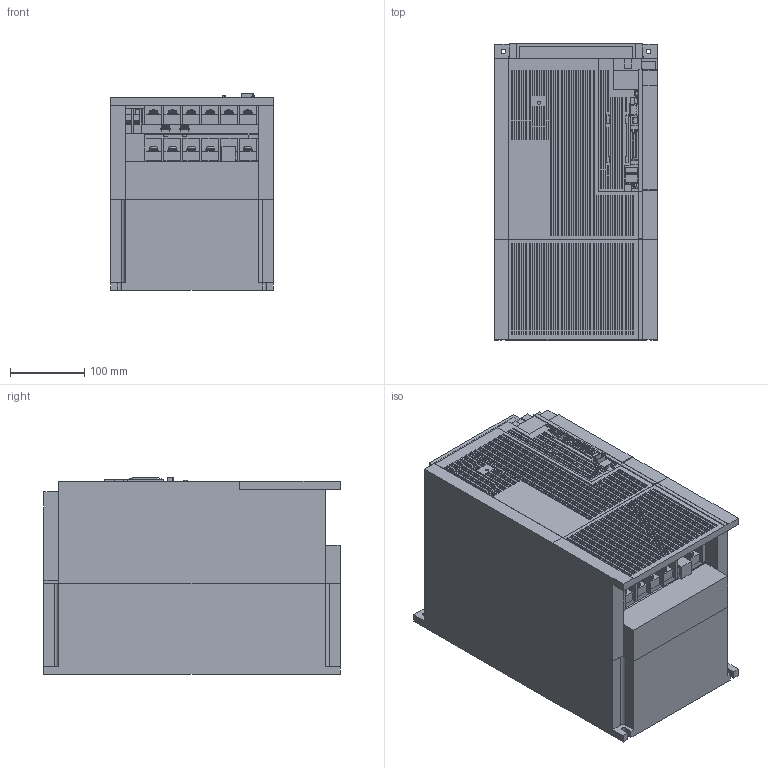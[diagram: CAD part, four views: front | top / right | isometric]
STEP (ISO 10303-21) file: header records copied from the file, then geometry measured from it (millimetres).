
FILE_DESCRIPTION((''),'2;1');
FILE_NAME('MR-J4-11KAA_ASM','2012-11-30T',('ES20962'),(''),'PRO/ENGINEER BY PARAMETRIC TECHNOLOGY CORPORATION, 2011490','PRO/ENGINEER BY PARAMETRIC TECHNOLOGY CORPORATION, 2011490','');
FILE_SCHEMA(('CONFIG_CONTROL_DESIGN'));
Length unit declared in the file: millimetre
Products named in the file (21): J4-11-15K-CASE1; J4-11-15K-CASE2; J4-11-15K-FANCOVER; J4-11-22K-SIDECOVER; J4-11-15K-TECOVER; J4-11-15K-BASE2; J4-FRONTPANEL; J4-LENZ; J4A-CN1; J4A-CN2; J4A-CN3; J4A-CN4; J4A-CN5; J4A-CN6; J4A-CN8; J4-11-15K-TE1; J4-11-15K-TE2; FAN120-1; SW-PW-P-NA-M6X12; SW-PW-P-NA-M4X10; MR-J4-11KAA_ASM
Assembly tree (34 placements, depth 2):
  MR-J4-11KAA_ASM
    J4-11-15K-CASE1
    J4-11-15K-CASE2
    J4-11-15K-FANCOVER
    J4-11-22K-SIDECOVER
    J4-11-15K-TECOVER
    J4-11-15K-BASE2
    J4-FRONTPANEL
    J4-LENZ
    J4A-CN1
    J4A-CN2
    J4A-CN3
    J4A-CN4
    J4A-CN5
    J4A-CN6
    J4A-CN8
    J4-11-15K-TE1  x2
    J4-11-15K-TE2
    FAN120-1
    SW-PW-P-NA-M6X12  x13
    SW-PW-P-NA-M4X10  x2
Bounding box: 220 x 400 x 265.95 mm (x, y, z)
Volume: 11706389.5 mm3; surface area: 1165435.8 mm2
Topology: 35 solids, 35 shells, 1727 faces, 4448 edges, 2925 vertices
Faces by surface type: plane 1313, cylinder 324, cone 30, torus 30, sphere 30
Entity records: 43165 total; most frequent: CARTESIAN_POINT 7530, ORIENTED_EDGE 7320, DIRECTION 6980, EDGE_CURVE 3660, VECTOR 3212, LINE 3212, VERTEX_POINT 2434, AXIS2_PLACEMENT_3D 1884
